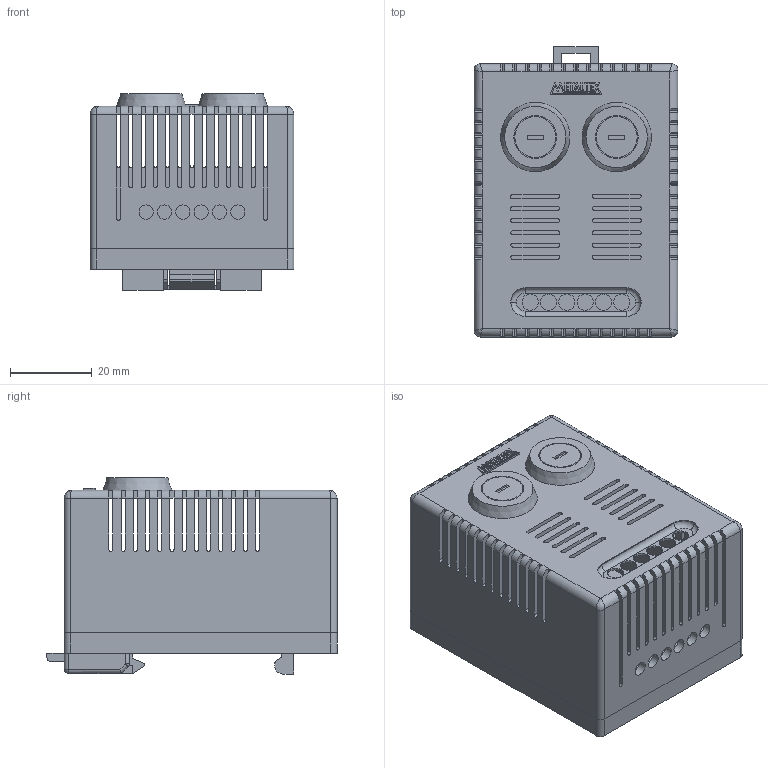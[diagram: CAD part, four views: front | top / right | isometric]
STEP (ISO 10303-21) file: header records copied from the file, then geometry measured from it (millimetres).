
FILE_DESCRIPTION(('FreeCAD Model'),'2;1');
FILE_NAME('Open CASCADE Shape Model','2021-11-12T09:29:03',( 'Engenharia Metaltex'),('Metaltex'), 'Open CASCADE STEP processor 7.5','FreeCAD','Unknown');
FILE_SCHEMA(('AUTOMOTIVE_DESIGN { 1 0 10303 214 1 1 1 1 }'));
Length unit declared in the file: millimetre
Products named in the file (4): TRS1_AR; Fusion003; Fusion002; Presilha
Assembly tree (3 placements, depth 2):
  TRS1_AR
    Fusion003
    Fusion002
    Presilha
Bounding box: 50 x 71.17 x 48.12 mm (x, y, z)
Volume: 38766.6 mm3; surface area: 34896.5 mm2
Topology: 12 solids, 12 shells, 767 faces, 2254 edges, 1414 vertices
Faces by surface type: plane 393, cylinder 264, bspline 100, torus 4, sphere 4, cone 2
Full cylindrical faces by diameter (mm): 3.5 x6, 4 x6, 10 x2, 10.5 x2, 15 x2
Entity records: 54886 total; most frequent: CARTESIAN_POINT 11367, DIRECTION 7681, LINE 4952, VECTOR 4952, ORIENTED_EDGE 4492, PCURVE 4492, DEFINITIONAL_REPRESENTATION 4492, EDGE_CURVE 2246
